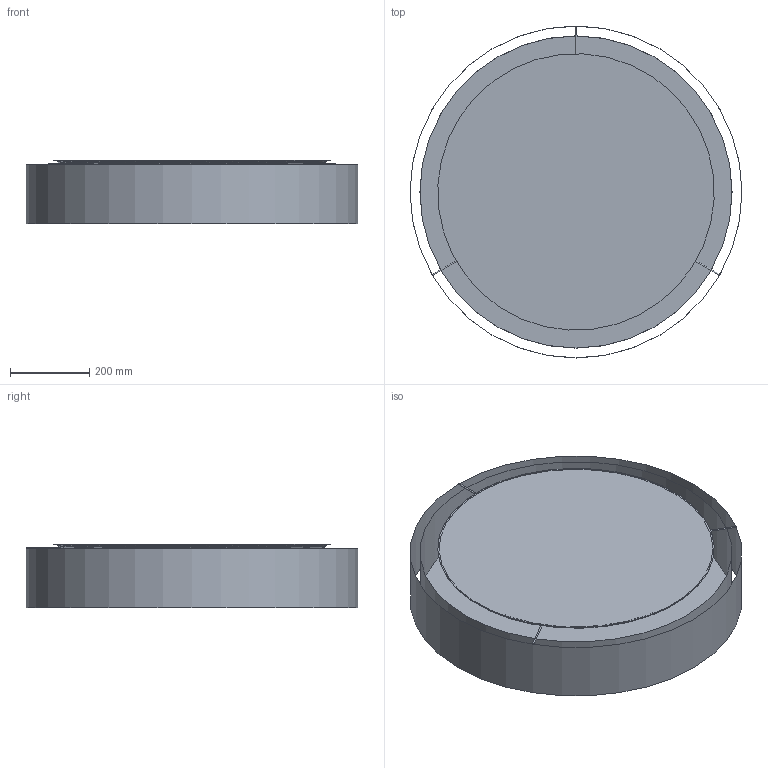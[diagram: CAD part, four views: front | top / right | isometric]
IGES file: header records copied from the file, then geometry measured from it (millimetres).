
Start section: SolidWorks IGES file using analytic representation for surfaces
Global section: file name: X:\PRODUKT\Modele 3D_WWW\_KOLEKCJE WWW\MIST\MIST-8944\MIST-8944.IGS; native system: SolidWorks 2021; preprocessor: SolidWorks 2021; author: gabriela.tworek; date: 220920.131308; units: millimetre
Bounding box: 840 x 840 x 161.29 mm (x, y, z)
Surface area: 2110606.8 mm2 (no closed solid volume)
Topology: 0 solids, 0 shells, 68 faces, 234 edges, 218 vertices
Faces by surface type: bspline 52, revolution 16
